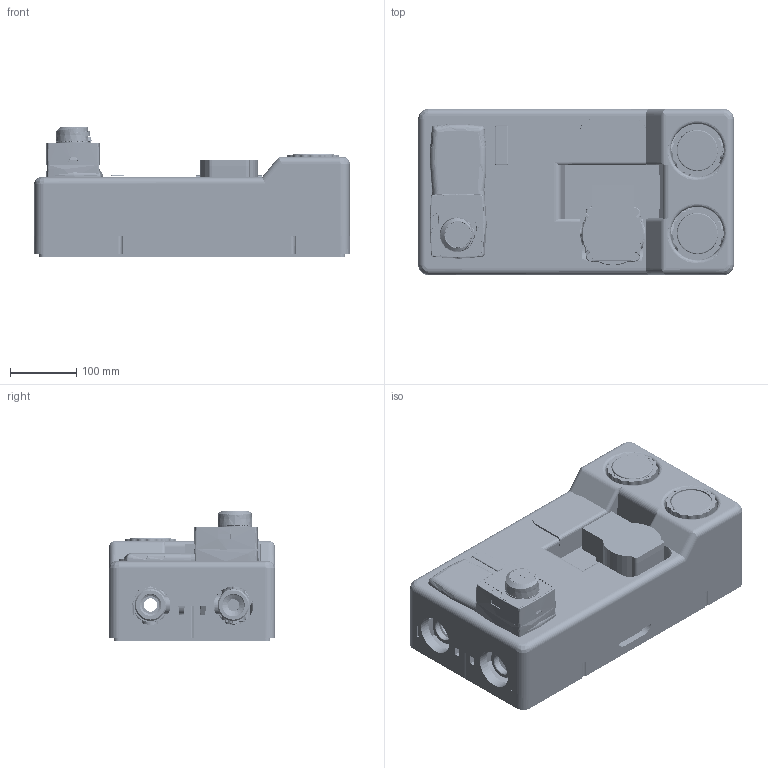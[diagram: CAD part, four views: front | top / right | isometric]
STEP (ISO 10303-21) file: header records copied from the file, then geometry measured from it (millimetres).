
FILE_DESCRIPTION (( 'STEP AP214' ), '1' );
FILE_NAME ('77302.STEP', '2022-02-16T14:11:10', ( '' ), ( '' ), 'SwSTEP 2.0', 'SolidWorks 2021', '' );
FILE_SCHEMA (( 'AUTOMOTIVE_DESIGN' ));
Length unit declared in the file: millimetre
Products named in the file (164): STEG_19; 05 00 410237__X_DCberwurfmutter G1 1_2; Geh_X_E4use Kugelhahn m. Flansch DN 20; 05 00 410619_Halter; 0_0_0_8; Mitnahme-Blech_05 00 410240; STEG_23; druck seite; STEG_25; 0_0_0_7; M9120001; STEG; M9120009; Doming-Schild _AFRISO__852 000 2161; zifferblatt_Baugruppe_0; Sprengring DIN 7993-A28 (Welle _X_D828)_907993 2802 __0; Tauchh_X_FClse_05 00 410223; O-RING 8,73X1,78_801 000 0202; 05 00 410347_Distanzh_X_FClse kurz; 05 00 410348_Distanzh_X_FClse lang; 907380 0001_FKS-DIN7380_2-10.9-TX20-(A2K)-M4X12_0_4; 0_0_0_5; STEG_21; M9120004; STEG_12; 05 00 000264_Stellm. ARM 343 ProClick 6Nm,120s; Einlegeteile Stellantrieb_05 00 410617; ZIFFERBLATT; STEGE_2; M9120013; 900085 5010_Flakoschr. ISO7045 M5x10-4,8-Z; 760 000 0162_Flachdichtung 44x32x2 F391_3; Druck vorne; STEG_24; 3d_VARIOSPICO15_1-7-4215540; ZEIGER_2; 0_0_0_2; 05 01 000392_Mischergeh_X_E4use DN 25; Afriso Logo; 0_0_0_3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
Assembly tree (163 placements, depth 10):
  77302
    PrimoTherm 180-2 DN25 3WM-SM Vario_77300
      R_X_DCCKLAUFSTRANG
        05 00 32 11_ R_X_FCcklaufstrang PrimoTherm vorm.
          05 00 410412_05 00 410112
            Einschraubk_X_F6rper_05 00 410483
            Geh_X_E4use Kugelhahn m. Flansch DN 20
          HANDRAD_05 00 410222
            HANDRAD_05 00 410222
            STEGE
            0_0_0
              0_0_0_2
                STEG
                STEG_2
                STEG_3
                0_0_0_3
                  STEG_4
                  STEG_5
              0_0_0_4
                STEG_6
                STEG_7
                STEG_8
                STEG_9
              0_0_0_5
                STEG_10
                STEG_11
                STEG_12
                STEG_13
            Tauchh_X_FClse_05 00 410223
            ZAHNSCHEIBE_906797 8400
            Mitnahme-Blech_05 00 410240
              BLECHLASCHE
          Mutter DIN 3292 - G 1 1_2 NE_05 00 410237
          DICHTUNG 11_2_760 330 2080
          Distanzrohr G1 1_2 x 282mm_05 00 000249
        05 00 41 87_Bi-Th NG63 0-120_X_B0C blau RSK
          zifferblatt_Baugruppe_0
            DECKGLAS
            ZIFFERBLATT
            ZEIGER
            Bedruckung02
            Ring-blau
            Bedruckung
              Bedruckung
              Afriso Logo
        05 00 410237__X_DCberwurfmutter G1 1_2
        760 000 0162_Flachdichtung 44x32x2 F391
      VORLAUFSTRANG
        760 000 0162_Flachdichtung 44x32x2 F 391
        760 000 0162_Flachdichtung 44x32x2 F391_2
        760 000 0162_Flachdichtung 44x32x2 F391_3
        05 00 41 20_Bi-Th. NG63 0-120_X_B0C rot_0
          DECKGLAS_2
          ZIFFERBLATT_2
          ZEIGER_2
          DRUCK
        05 00 410237__X_DCberwurfmutter G1 1_2_2
        05 00 410237__X_DCberwurfmutter G1 1_2_3
        05 00 410237__X_DCberwurfmutter G1 1_2_4
        05 00 410505_Pumpenkugelhahn G1 1_2xFlansch
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Bounding box: 475 x 250.01 x 195.56 mm (x, y, z)
Volume: 8812763.7 mm3; surface area: 1724687.5 mm2
Topology: 301 solids, 309 shells, 15711 faces, 40337 edges, 25265 vertices
Faces by surface type: plane 6856, bspline 3591, cylinder 3354, cone 1465, torus 410, sphere 35
Entity records: 905324 total; most frequent: CARTESIAN_POINT 407905, ORIENTED_EDGE 80164, DIRECTION 61031, EDGE_CURVE 40100, VERTEX_POINT 25257, AXIS2_PLACEMENT_3D 20515, VECTOR 20001, LINE 20001
